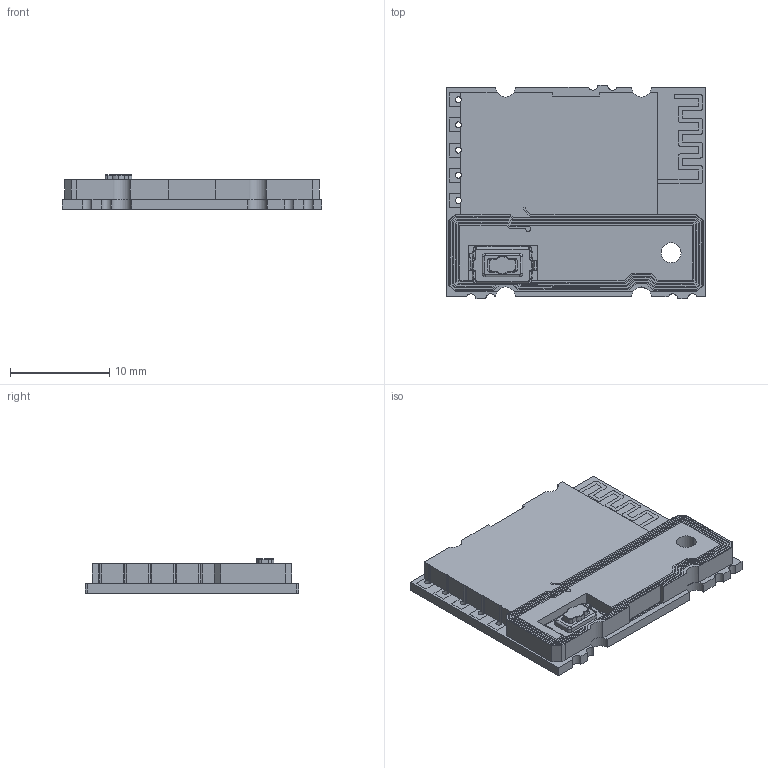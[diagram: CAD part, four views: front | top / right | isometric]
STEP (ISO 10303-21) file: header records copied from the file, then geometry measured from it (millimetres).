
FILE_DESCRIPTION (( 'STEP AP214' ), '1' );
FILE_NAME ('C99_L01_PTM535BZ_PCB_board_customer_Sample.STEP', '2021-03-09T08:56:42', ( '' ), ( '' ), 'SwSTEP 2.0', 'SolidWorks 2021', '' );
FILE_SCHEMA (( 'AUTOMOTIVE_DESIGN' ));
Length unit declared in the file: millimetre
Products named in the file (1): C99_L01_PTM535BZ_PCB_board_customer_Sample
Bounding box: 26.2 x 21.55 x 3.5 mm (x, y, z)
Volume: 1390.9 mm3; surface area: 1549.6 mm2
Topology: 1 solids, 1 shells, 770 faces, 2227 edges, 1457 vertices
Faces by surface type: plane 607, cylinder 146, torus 15, bspline 2
Entity records: 25126 total; most frequent: CARTESIAN_POINT 4598, ORIENTED_EDGE 4454, DIRECTION 4050, EDGE_CURVE 2227, LINE 1892, VECTOR 1892, VERTEX_POINT 1457, AXIS2_PLACEMENT_3D 1079
